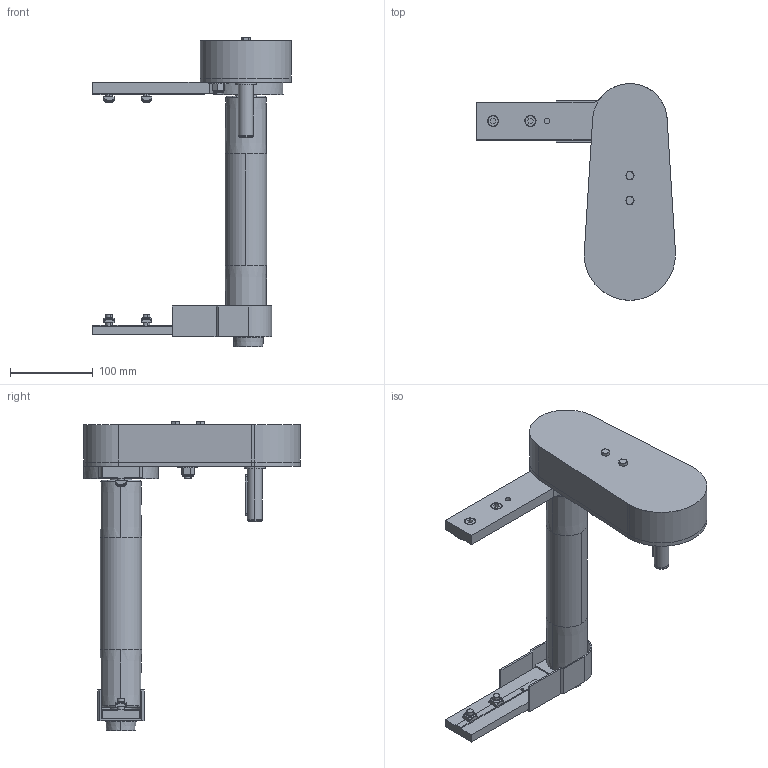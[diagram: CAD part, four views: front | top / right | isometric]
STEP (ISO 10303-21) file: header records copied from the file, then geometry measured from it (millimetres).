
FILE_DESCRIPTION (( 'STEP AP203' ), '1' );
FILE_NAME ('084.050.KTB.44.250.STEP', '2019-07-29T13:35:57', ( '' ), ( '' ), 'SwSTEP 2.0', 'SolidWorks 2018', '' );
FILE_SCHEMA (( 'CONFIG_CONTROL_DESIGN' ));
Length unit declared in the file: millimetre
Products named in the file (29): 084.811.004; 084.302.000 DADI ALUSIC 13x13-1_084.302.004; VITI TSEI UNI 5933_M4x12 UNI 5933; 084.810.008; 084.809.003; 084.050.KTB.44.250; RONDELLE FASCIA LARGA UNI 6593_8.4x24 UNI 6593; 084.821.003; CHIAVETTE_A 8x7x25 UNI 6604-69; VITI TE UNI 5739_M6x50 UNI 5739; 084.802.023_084.802.023; 084.810.001; 084.815.104_Default<A macchina>; 084.807.001_084.807.001; Circlip DIN 471 - 8 x 0.8_Circlip DIN 471 - 8 x 0.8; 084.810.006; 084.802.034_084.802.034; VITI TE UNI 5739_M8x20 UNI 5739; CUSCINETTI A SFERE_608-2RS; 084.821.002; DADI ESAGONALI AUTOBLOCCANTI UNI 7473_M8 UNI 7473; 084.802.017_084.802.017; CHIAVETTE_A 6x6x50 UNI 6604-69; 084.813.001; 084.809.001; 084.813.004; RONDELLE UNI 6592_8.4x17 UNI 6592; 084.301.000 VITI ALUSIC_084.301.003; 084.807.002_084.807.002
Assembly tree (47 placements, depth 3):
  084.050.KTB.44.250
    084.802.023_084.802.023
    084.813.004
    084.810.006
      084.810.008
      CUSCINETTI A SFERE_608-2RS  x3
      Circlip DIN 471 - 8 x 0.8_Circlip DIN 471 - 8 x 0.8
      RONDELLE FASCIA LARGA UNI 6593_8.4x24 UNI 6593
      DADI ESAGONALI AUTOBLOCCANTI UNI 7473_M8 UNI 7473
    084.809.003
    084.809.001
    084.821.002  x2
    084.821.003
    084.802.017_084.802.017
    084.802.034_084.802.034
    084.807.001_084.807.001
    084.807.002_084.807.002
    084.813.001
    084.810.001  x2
    084.811.004
    084.815.104_Default<A macchina>
    CHIAVETTE_A 8x7x25 UNI 6604-69  x2
    CHIAVETTE_A 6x6x50 UNI 6604-69
    VITI TSEI UNI 5933_M4x12 UNI 5933  x2
    084.302.000 DADI ALUSIC 13x13-1_084.302.004  x4
    084.301.000 VITI ALUSIC_084.301.003  x4
    VITI TE UNI 5739_M6x50 UNI 5739  x2
    RONDELLE UNI 6592_8.4x17 UNI 6592  x4
    VITI TE UNI 5739_M8x20 UNI 5739  x4
Bounding box: 240 x 261.5 x 373 mm (x, y, z)
Volume: 910096.7 mm3; surface area: 518378.3 mm2
Topology: 51 solids, 52 shells, 1713 faces, 4429 edges, 2877 vertices
Faces by surface type: plane 756, cylinder 626, cone 182, torus 116, bspline 24, sphere 9
Entity records: 41678 total; most frequent: CARTESIAN_POINT 7908, DIRECTION 6537, ORIENTED_EDGE 6184, EDGE_CURVE 3092, AXIS2_PLACEMENT_3D 2379, VERTEX_POINT 2016, LINE 1779, VECTOR 1779
